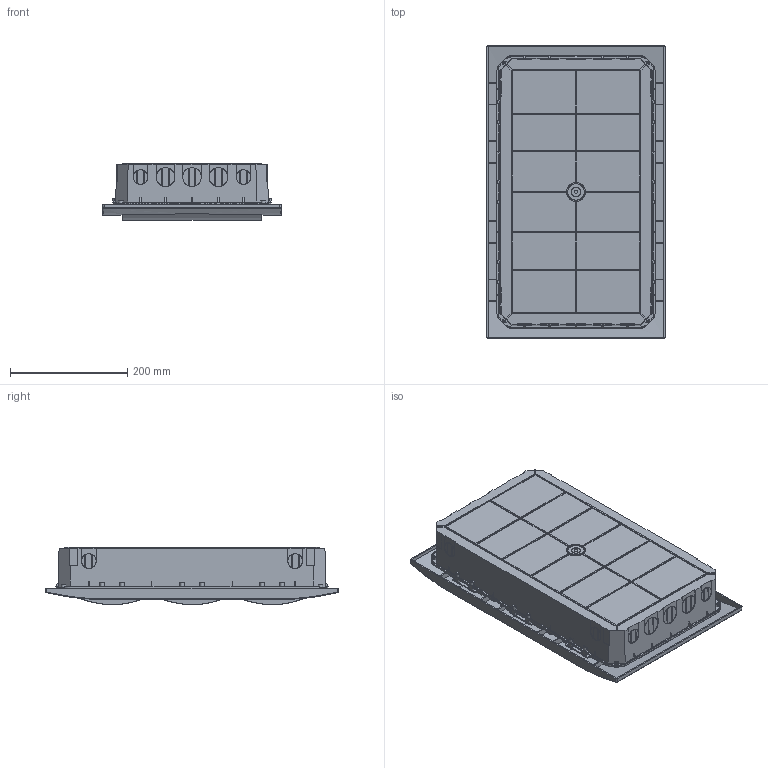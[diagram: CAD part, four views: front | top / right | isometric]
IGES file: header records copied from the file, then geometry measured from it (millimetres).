
Start section: SolidWorks IGES file using analytic representation for surfaces
Global section: file name: Q:\GROUPS\BR_SC_JGS_WA_TECNICO\ENG\Usuarios\Rodrigob\conversão\Chave de Partida\Produto\QDW\QDW02-E\QDW02-36-E\QDW02-36-E.IGS; native system: SolidWorks 2012; preprocessor: SolidWorks 2012; author: rodrigob; date: 140320.092204; units: millimetre
Bounding box: 304 x 500 x 98 mm (x, y, z)
Surface area: 1194710.5 mm2 (no closed solid volume)
Topology: 0 solids, 0 shells, 2698 faces, 27410 edges, 27406 vertices
Faces by surface type: bspline 2029, revolution 669
